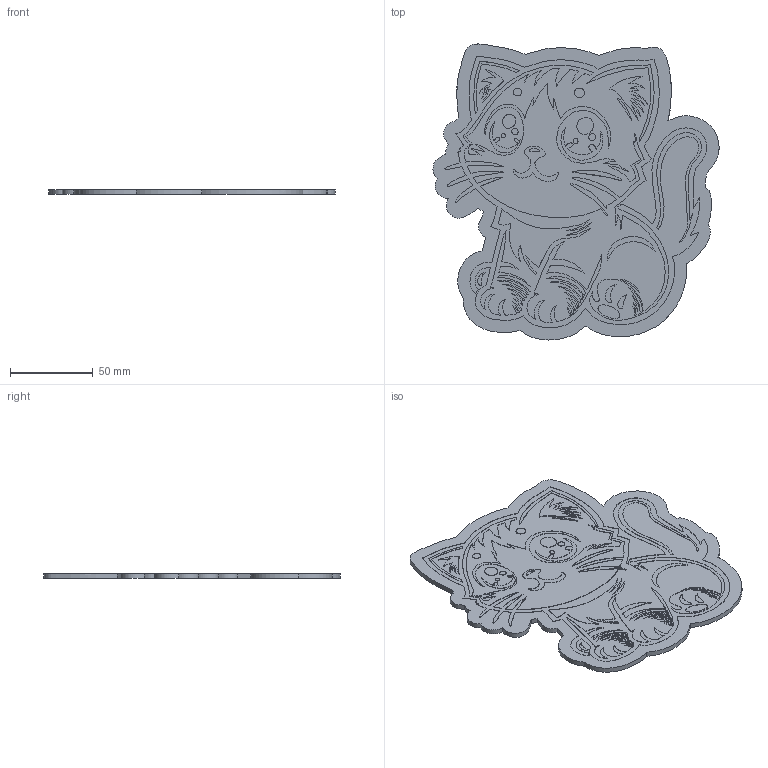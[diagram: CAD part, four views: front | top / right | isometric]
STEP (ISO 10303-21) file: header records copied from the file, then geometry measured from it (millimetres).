
FILE_DESCRIPTION(('STEP AP214'),'1');
FILE_NAME('2a.stp','2026-07-04T12:56:14',(' '),(' '),'Spatial InterOp 3D',' ',' ');
FILE_SCHEMA(('AUTOMOTIVE_DESIGN { 1 0 10303 214 1 1 1 1 }'));
Length unit declared in the file: metre
Products named in the file (25): 1783167545; 1783188323; 1783188362; 1783188363; 1783188364; 1783188365; 1783188366; 1783188367; 1783188368; 1783188369; 1783188370; 1783188371; 1783188372; 1783188373; 1783188374; 1783188375; 1783188376; 1783188378; 1783188380; 1783188381; 1783188383; 1783188384; 1783188392; 1783188396; 1
Bounding box: 172.44 x 178.41 x 3 mm (x, y, z)
Volume: 70290.4 mm3; surface area: 65119.4 mm2
Topology: 24 solids, 24 shells, 304 faces, 986 edges, 735 vertices
Faces by surface type: extrusion 251, plane 53
Entity records: 20140 total; most frequent: CARTESIAN_POINT 9892, ORIENTED_EDGE 1486, B_SPLINE_CURVE_WITH_KNOTS 898, EDGE_CURVE 743, DIRECTION 648, VERTEX_POINT 502, VECTOR 492, STYLED_ITEM 402
